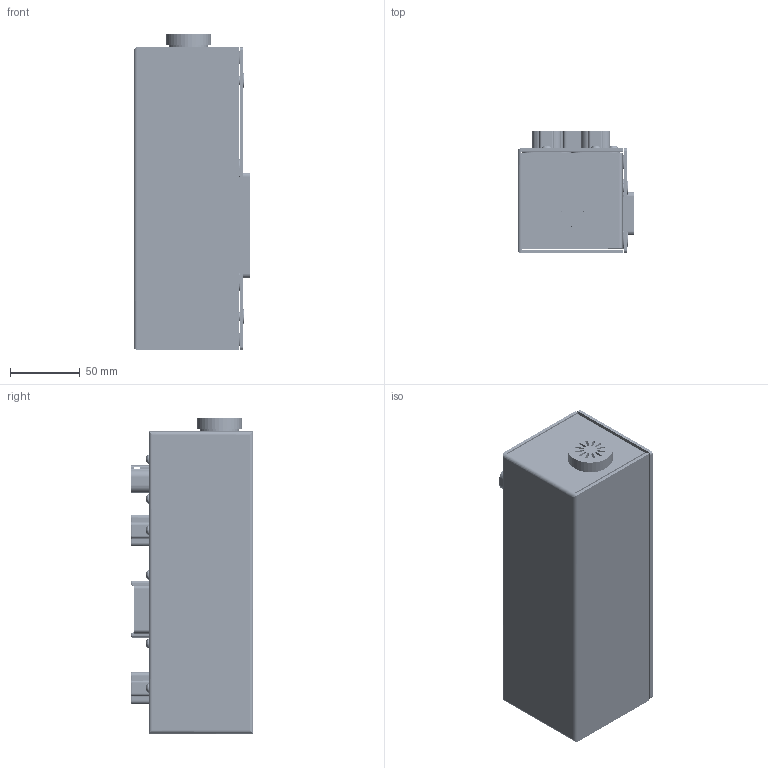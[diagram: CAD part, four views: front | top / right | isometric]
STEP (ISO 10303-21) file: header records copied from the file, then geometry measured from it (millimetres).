
FILE_DESCRIPTION (( 'STEP AP214' ), '1' );
FILE_NAME ('Bottom Platform Distribution.STEP', '2017-03-15T15:13:42', ( '' ), ( '' ), 'SwSTEP 2.0', 'SolidWorks 2014', '' );
FILE_SCHEMA (( 'AUTOMOTIVE_DESIGN' ));
Length unit declared in the file: inch
Products named in the file (15): 90585A245_TYPE 316 SS FLAT-HEAD SOCKET CAP SCREW_90585A245; 98164A106_TYPE 316 SS BUTTON-HEAD SOCKET CAP SCREW_98164A106; 90585A989_TYPE 316 SS FLAT-HEAD SOCKET CAP SCREW_90585A989; Bottom Distribution Lid; 544784; Bottom Distribution Enclosure; 93482A646_ALUMINUM RIVET NUT_93482A646; Enclosure; connector assembly; PCB; c-dt15-08pa-g003-99-3d; c-dt15-12pa-99-3d1; c-dt15-4p-99-3d; c-drc13-40pa-g002-99-3d; Bottom Platform Distribution
Assembly tree (38 placements, depth 3):
  Bottom Platform Distribution
    connector assembly
      c-drc13-40pa-g002-99-3d
      c-dt15-4p-99-3d  x2
      c-dt15-12pa-99-3d1
      c-dt15-08pa-g003-99-3d  x2
      PCB
    Bottom Distribution Enclosure
      Enclosure
      93482A646_ALUMINUM RIVET NUT_93482A646  x4
    544784
    Bottom Distribution Lid
    93482A646_ALUMINUM RIVET NUT_93482A646  x4
    90585A989_TYPE 316 SS FLAT-HEAD SOCKET CAP SCREW_90585A989  x4
    98164A106_TYPE 316 SS BUTTON-HEAD SOCKET CAP SCREW_98164A106  x10
    90585A245_TYPE 316 SS FLAT-HEAD SOCKET CAP SCREW_90585A245  x4
Bounding box: 83.92 x 87.63 x 226.31 mm (x, y, z)
Volume: 395106 mm3; surface area: 262628.2 mm2
Topology: 36 solids, 36 shells, 4783 faces, 12279 edges, 7806 vertices
Faces by surface type: cylinder 2082, plane 1618, bspline 626, cone 417, torus 20, sphere 20
Entity records: 118041 total; most frequent: CARTESIAN_POINT 41812, ORIENTED_EDGE 14460, DIRECTION 13567, EDGE_CURVE 7230, AXIS2_PLACEMENT_3D 4859, VERTEX_POINT 4654, VECTOR 3849, LINE 3849
